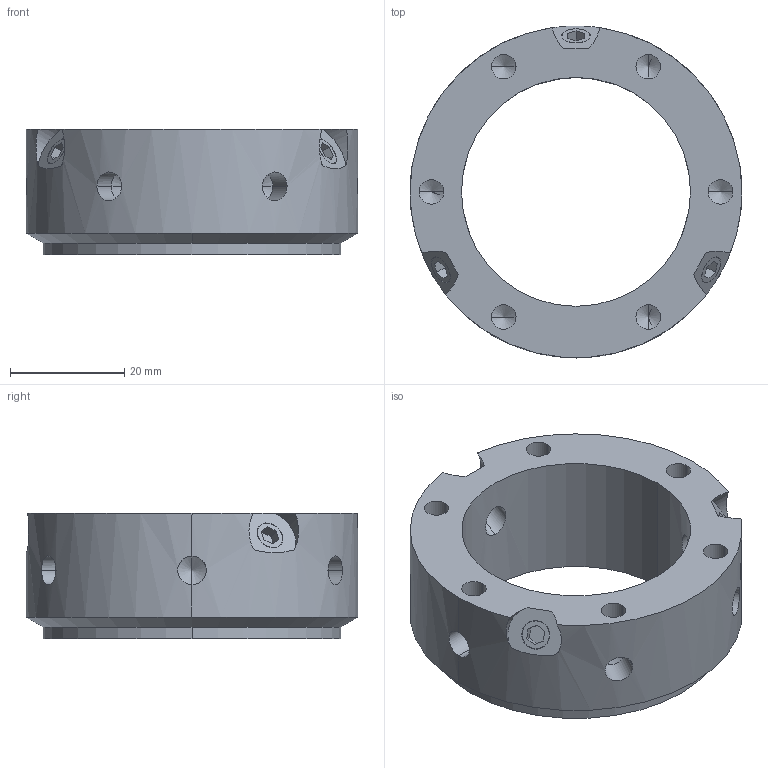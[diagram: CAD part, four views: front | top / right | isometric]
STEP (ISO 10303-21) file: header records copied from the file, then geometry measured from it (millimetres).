
FILE_DESCRIPTION (( 'STEP AP203' ), '1' );
FILE_NAME ('HLRN40.STEP', '2019-06-04T08:13:21', ( '' ), ( '' ), 'SwSTEP 2.0', 'SolidWorks 2015', '' );
FILE_SCHEMA (( 'CONFIG_CONTROL_DESIGN' ));
Length unit declared in the file: millimetre
Products named in the file (1): HLRN40
Bounding box: 58 x 58 x 22 mm (x, y, z)
Volume: 27352.1 mm3; surface area: 10341.4 mm2
Topology: 1 solids, 1 shells, 121 faces, 305 edges, 175 vertices
Faces by surface type: cylinder 48, cone 44, plane 29
Entity records: 4057 total; most frequent: CARTESIAN_POINT 1237, DIRECTION 583, ORIENTED_EDGE 550, EDGE_CURVE 275, AXIS2_PLACEMENT_3D 219, VERTEX_POINT 175, VECTOR 145, LINE 145
